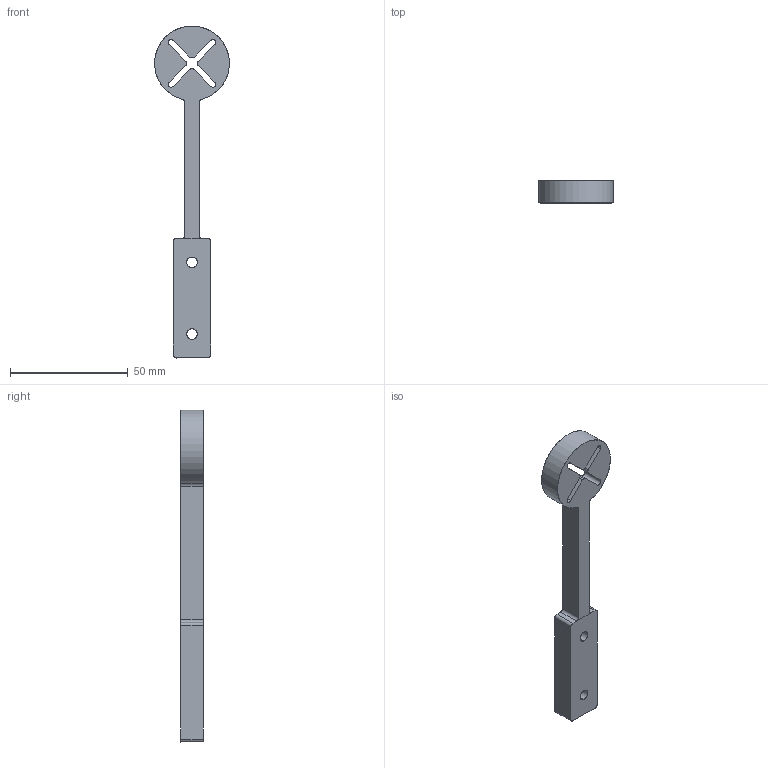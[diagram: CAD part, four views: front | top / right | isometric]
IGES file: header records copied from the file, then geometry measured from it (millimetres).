
Start section: SolidWorks IGES file using analytic representation for surfaces
Global section: file name: C:\Users\cuervo\Documents\OpenROV\test_stand_CAD\motor_mounts\prt_motor_mount_plate_X.IGS; native system: SolidWorks 2011; preprocessor: SolidWorks 2011; author: cuervo; date: 140428.090838; units: inch
Bounding box: 31.72 x 9.53 x 141.1 mm (x, y, z)
Surface area: 8060.7 mm2 (no closed solid volume)
Topology: 0 solids, 0 shells, 43 faces, 676 edges, 676 vertices
Faces by surface type: revolution 24, bspline 19
